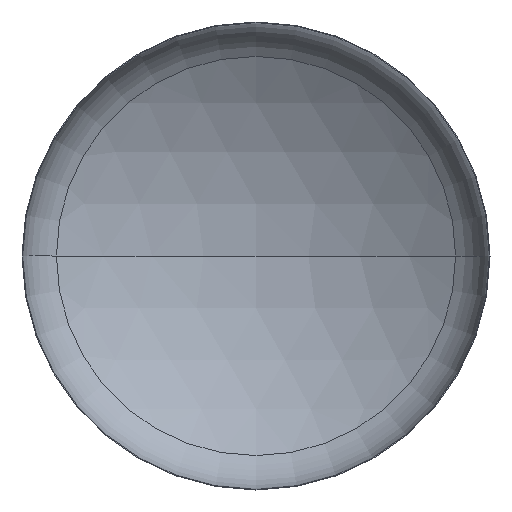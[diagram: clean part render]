
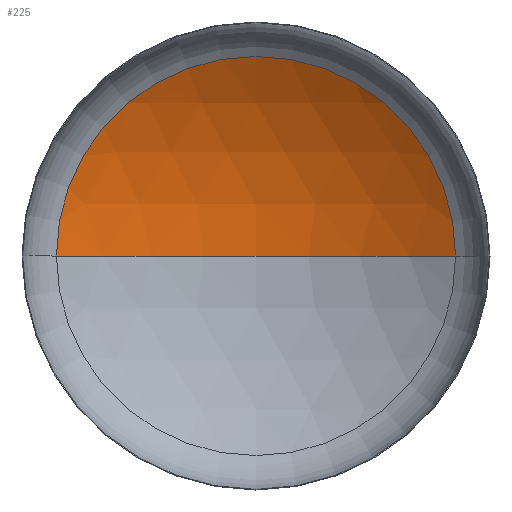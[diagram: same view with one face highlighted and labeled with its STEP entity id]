
A CAD part, front view. The second image highlights one B-rep face of the part: STEP entity #225.
In plain terms, the highlighted spherical face has radius 1760 mm.
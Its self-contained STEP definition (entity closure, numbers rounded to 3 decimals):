
#34 = EDGE_CURVE ( 'NONE', #92, #49, #277, .T. ) ;
#47 = ORIENTED_EDGE ( 'NONE', *, *, #120, .T. ) ;
#49 = VERTEX_POINT ( 'NONE', #246 ) ;
#54 = ORIENTED_EDGE ( 'NONE', *, *, #34, .F. ) ;
#66 = EDGE_LOOP ( 'NONE', ( #54, #98, #47 ) ) ;
#73 = VERTEX_POINT ( 'NONE', #244 ) ;
#92 = VERTEX_POINT ( 'NONE', #285 ) ;
#95 = EDGE_CURVE ( 'NONE', #92, #73, #202, .T. ) ;
#98 = ORIENTED_EDGE ( 'NONE', *, *, #95, .T. ) ;
#120 = EDGE_CURVE ( 'NONE', #73, #49, #130, .T. ) ;
#130 = CIRCLE ( 'NONE', #284, 938.254 ) ;
#151 = DIRECTION ( 'NONE',  ( 1., 0., 0. ) ) ;
#169 = FACE_OUTER_BOUND ( 'NONE', #66, .T. ) ;
#191 = DIRECTION ( 'NONE',  ( -1., 0., 0. ) ) ;
#200 = AXIS2_PLACEMENT_3D ( 'NONE', #302, #396, #191 ) ;
#202 = CIRCLE ( 'NONE', #247, 1760. ) ;
#206 = DIRECTION ( 'NONE',  ( 0., -1., 0. ) ) ;
#207 = CARTESIAN_POINT ( 'NONE',  ( 0., 307.658, 0. ) ) ;
#210 = DIRECTION ( 'NONE',  ( 0., 0., -1. ) ) ;
#216 = CARTESIAN_POINT ( 'NONE',  ( 0., -1181.395, 0. ) ) ;
#225 = ADVANCED_FACE ( 'NONE', ( #169 ), #243, .F. ) ;
#227 = AXIS2_PLACEMENT_3D ( 'NONE', #271, #267, #266 ) ;
#237 = DIRECTION ( 'NONE',  ( -1., 0., 0. ) ) ;
#243 = SPHERICAL_SURFACE ( 'NONE', #200, 1760. ) ;
#244 = CARTESIAN_POINT ( 'NONE',  ( 938.254, 307.658, 0. ) ) ;
#246 = CARTESIAN_POINT ( 'NONE',  ( -938.254, 307.658, 0. ) ) ;
#247 = AXIS2_PLACEMENT_3D ( 'NONE', #216, #210, #237 ) ;
#266 = DIRECTION ( 'NONE',  ( 1., 0., 0. ) ) ;
#267 = DIRECTION ( 'NONE',  ( 0., 0., 1. ) ) ;
#271 = CARTESIAN_POINT ( 'NONE',  ( 0., -1181.395, 0. ) ) ;
#277 = CIRCLE ( 'NONE', #227, 1760. ) ;
#284 = AXIS2_PLACEMENT_3D ( 'NONE', #207, #206, #151 ) ;
#285 = CARTESIAN_POINT ( 'NONE',  ( 0., 578.605, 0. ) ) ;
#302 = CARTESIAN_POINT ( 'NONE',  ( 0., -1181.395, 0. ) ) ;
#396 = DIRECTION ( 'NONE',  ( 0., 0., -1. ) ) ;
